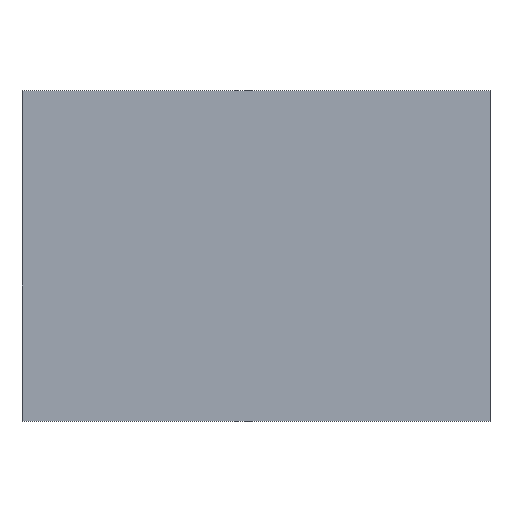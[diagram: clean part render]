
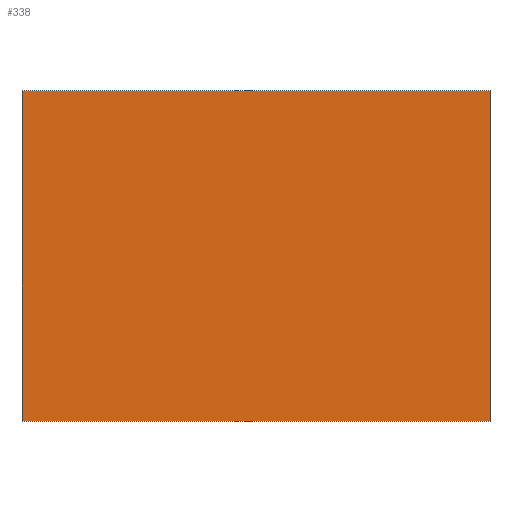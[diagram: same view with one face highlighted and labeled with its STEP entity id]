
A CAD part, top view. The second image highlights one B-rep face of the part: STEP entity #338.
In plain terms, the highlighted planar face has unit normal (0, 0, 1).
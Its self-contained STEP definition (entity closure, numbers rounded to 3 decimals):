
#24 = VERTEX_POINT('',#25);
#25 = CARTESIAN_POINT('',(-777.5,-640.,1285.));
#32 = PLANE('',#33);
#33 = AXIS2_PLACEMENT_3D('',#34,#35,#36);
#34 = CARTESIAN_POINT('',(-777.5,-640.,1265.));
#35 = DIRECTION('',(1.,0.,-0.));
#36 = DIRECTION('',(0.,0.,1.));
#44 = PLANE('',#45);
#45 = AXIS2_PLACEMENT_3D('',#46,#47,#48);
#46 = CARTESIAN_POINT('',(-777.5,-640.,1265.));
#47 = DIRECTION('',(-0.,1.,0.));
#48 = DIRECTION('',(0.,0.,1.));
#85 = VERTEX_POINT('',#86);
#86 = CARTESIAN_POINT('',(-777.5,-460.,1285.));
#100 = PLANE('',#101);
#101 = AXIS2_PLACEMENT_3D('',#102,#103,#104);
#102 = CARTESIAN_POINT('',(-777.5,-460.,1265.));
#103 = DIRECTION('',(-0.,1.,0.));
#104 = DIRECTION('',(0.,0.,1.));
#112 = EDGE_CURVE('',#24,#85,#113,.T.);
#113 = SURFACE_CURVE('',#114,(#118,#125),.PCURVE_S1.);
#114 = LINE('',#115,#116);
#115 = CARTESIAN_POINT('',(-777.5,-640.,1285.));
#116 = VECTOR('',#117,1.);
#117 = DIRECTION('',(-0.,1.,0.));
#118 = PCURVE('',#32,#119);
#119 = DEFINITIONAL_REPRESENTATION('',(#120),#124);
#120 = LINE('',#121,#122);
#121 = CARTESIAN_POINT('',(20.,0.));
#122 = VECTOR('',#123,1.);
#123 = DIRECTION('',(0.,-1.));
#124 = ( GEOMETRIC_REPRESENTATION_CONTEXT(2) 
PARAMETRIC_REPRESENTATION_CONTEXT() REPRESENTATION_CONTEXT('2D SPACE',''
  ) );
#125 = PCURVE('',#126,#131);
#126 = PLANE('',#127);
#127 = AXIS2_PLACEMENT_3D('',#128,#129,#130);
#128 = CARTESIAN_POINT('',(-777.5,-640.,1285.));
#129 = DIRECTION('',(0.,0.,1.));
#130 = DIRECTION('',(1.,0.,-0.));
#131 = DEFINITIONAL_REPRESENTATION('',(#132),#136);
#132 = LINE('',#133,#134);
#133 = CARTESIAN_POINT('',(0.,0.));
#134 = VECTOR('',#135,1.);
#135 = DIRECTION('',(0.,1.));
#136 = ( GEOMETRIC_REPRESENTATION_CONTEXT(2) 
PARAMETRIC_REPRESENTATION_CONTEXT() REPRESENTATION_CONTEXT('2D SPACE',''
  ) );
#144 = VERTEX_POINT('',#145);
#145 = CARTESIAN_POINT('',(-522.5,-640.,1285.));
#152 = PLANE('',#153);
#153 = AXIS2_PLACEMENT_3D('',#154,#155,#156);
#154 = CARTESIAN_POINT('',(-522.5,-640.,1265.));
#155 = DIRECTION('',(1.,0.,-0.));
#156 = DIRECTION('',(0.,0.,1.));
#195 = VERTEX_POINT('',#196);
#196 = CARTESIAN_POINT('',(-522.5,-460.,1285.));
#217 = EDGE_CURVE('',#144,#195,#218,.T.);
#218 = SURFACE_CURVE('',#219,(#223,#230),.PCURVE_S1.);
#219 = LINE('',#220,#221);
#220 = CARTESIAN_POINT('',(-522.5,-640.,1285.));
#221 = VECTOR('',#222,1.);
#222 = DIRECTION('',(-0.,1.,0.));
#223 = PCURVE('',#152,#224);
#224 = DEFINITIONAL_REPRESENTATION('',(#225),#229);
#225 = LINE('',#226,#227);
#226 = CARTESIAN_POINT('',(20.,0.));
#227 = VECTOR('',#228,1.);
#228 = DIRECTION('',(0.,-1.));
#229 = ( GEOMETRIC_REPRESENTATION_CONTEXT(2) 
PARAMETRIC_REPRESENTATION_CONTEXT() REPRESENTATION_CONTEXT('2D SPACE',''
  ) );
#230 = PCURVE('',#126,#231);
#231 = DEFINITIONAL_REPRESENTATION('',(#232),#236);
#232 = LINE('',#233,#234);
#233 = CARTESIAN_POINT('',(255.,0.));
#234 = VECTOR('',#235,1.);
#235 = DIRECTION('',(0.,1.));
#236 = ( GEOMETRIC_REPRESENTATION_CONTEXT(2) 
PARAMETRIC_REPRESENTATION_CONTEXT() REPRESENTATION_CONTEXT('2D SPACE',''
  ) );
#263 = EDGE_CURVE('',#24,#144,#264,.T.);
#264 = SURFACE_CURVE('',#265,(#269,#276),.PCURVE_S1.);
#265 = LINE('',#266,#267);
#266 = CARTESIAN_POINT('',(-777.5,-640.,1285.));
#267 = VECTOR('',#268,1.);
#268 = DIRECTION('',(1.,0.,-0.));
#269 = PCURVE('',#44,#270);
#270 = DEFINITIONAL_REPRESENTATION('',(#271),#275);
#271 = LINE('',#272,#273);
#272 = CARTESIAN_POINT('',(20.,0.));
#273 = VECTOR('',#274,1.);
#274 = DIRECTION('',(0.,1.));
#275 = ( GEOMETRIC_REPRESENTATION_CONTEXT(2) 
PARAMETRIC_REPRESENTATION_CONTEXT() REPRESENTATION_CONTEXT('2D SPACE',''
  ) );
#276 = PCURVE('',#126,#277);
#277 = DEFINITIONAL_REPRESENTATION('',(#278),#282);
#278 = LINE('',#279,#280);
#279 = CARTESIAN_POINT('',(0.,0.));
#280 = VECTOR('',#281,1.);
#281 = DIRECTION('',(1.,0.));
#282 = ( GEOMETRIC_REPRESENTATION_CONTEXT(2) 
PARAMETRIC_REPRESENTATION_CONTEXT() REPRESENTATION_CONTEXT('2D SPACE',''
  ) );
#310 = EDGE_CURVE('',#85,#195,#311,.T.);
#311 = SURFACE_CURVE('',#312,(#316,#323),.PCURVE_S1.);
#312 = LINE('',#313,#314);
#313 = CARTESIAN_POINT('',(-777.5,-460.,1285.));
#314 = VECTOR('',#315,1.);
#315 = DIRECTION('',(1.,0.,-0.));
#316 = PCURVE('',#100,#317);
#317 = DEFINITIONAL_REPRESENTATION('',(#318),#322);
#318 = LINE('',#319,#320);
#319 = CARTESIAN_POINT('',(20.,0.));
#320 = VECTOR('',#321,1.);
#321 = DIRECTION('',(0.,1.));
#322 = ( GEOMETRIC_REPRESENTATION_CONTEXT(2) 
PARAMETRIC_REPRESENTATION_CONTEXT() REPRESENTATION_CONTEXT('2D SPACE',''
  ) );
#323 = PCURVE('',#126,#324);
#324 = DEFINITIONAL_REPRESENTATION('',(#325),#329);
#325 = LINE('',#326,#327);
#326 = CARTESIAN_POINT('',(0.,180.));
#327 = VECTOR('',#328,1.);
#328 = DIRECTION('',(1.,0.));
#329 = ( GEOMETRIC_REPRESENTATION_CONTEXT(2) 
PARAMETRIC_REPRESENTATION_CONTEXT() REPRESENTATION_CONTEXT('2D SPACE',''
  ) );
#338 = ADVANCED_FACE('',(#339),#126,.T.);
#339 = FACE_BOUND('',#340,.T.);
#340 = EDGE_LOOP('',(#341,#342,#343,#344));
#341 = ORIENTED_EDGE('',*,*,#112,.F.);
#342 = ORIENTED_EDGE('',*,*,#263,.T.);
#343 = ORIENTED_EDGE('',*,*,#217,.T.);
#344 = ORIENTED_EDGE('',*,*,#310,.F.);
